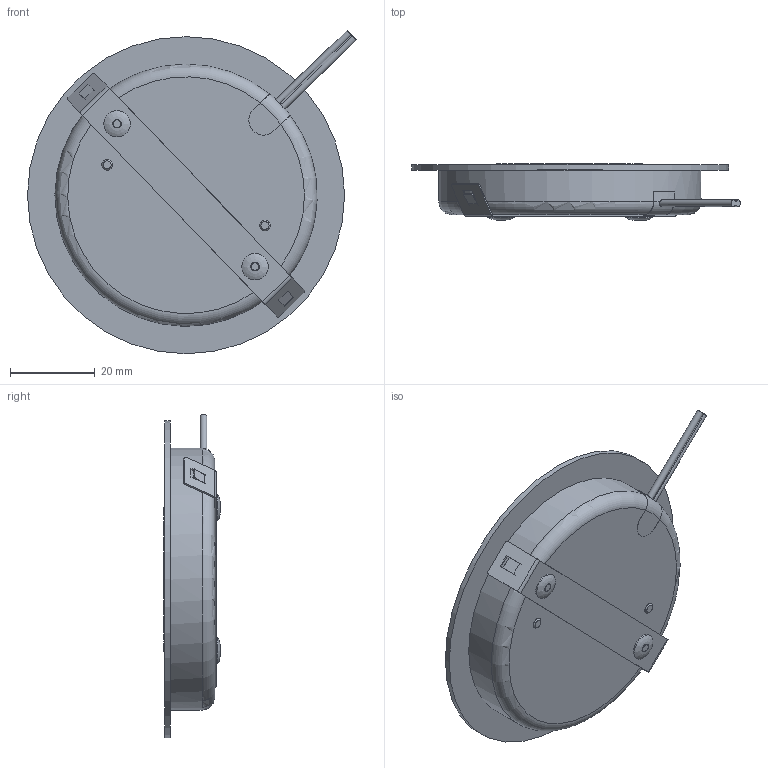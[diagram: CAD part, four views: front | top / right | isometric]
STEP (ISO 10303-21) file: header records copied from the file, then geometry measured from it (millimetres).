
FILE_DESCRIPTION(/* description */ (''),/* implementation_level */ '2;1');
FILE_NAME(/* name */ '5995495_HCL-160E(1).stp',/* time_stamp */ '2019-06-04T07:15:47+02:00',/* author */ (''),/* organization */ (''),/* preprocessor_version */ 'ST-DEVELOPER v16.7',/* originating_system */ 'SIEMENS PLM Software NX 12.0',/* authorisation */ '');
FILE_SCHEMA (('AUTOMOTIVE_DESIGN { 1 0 10303 214 3 1 1 1 }'));
Length unit declared in the file: millimetre
Products named in the file (1): p.sc2594C4D2k40i
Bounding box: 77.82 x 13.35 x 76.51 mm (x, y, z)
Volume: 37222.6 mm3; surface area: 12169.7 mm2
Topology: 1 solids, 1 shells, 88 faces, 227 edges, 151 vertices
Faces by surface type: plane 49, cylinder 26, cone 8, torus 2, bspline 2, revolution 1
Full cylindrical faces by diameter (mm): 1.807 x2, 2 x2, 2.5 x2, 6.25 x2, 48.8 x1, 49 x1, 62 x1, 75 x1
Entity records: 2742 total; most frequent: CARTESIAN_POINT 696, DIRECTION 417, ORIENTED_EDGE 386, EDGE_CURVE 193, AXIS2_PLACEMENT_3D 152, VERTEX_POINT 137, EDGE_LOOP 121, LINE 112
